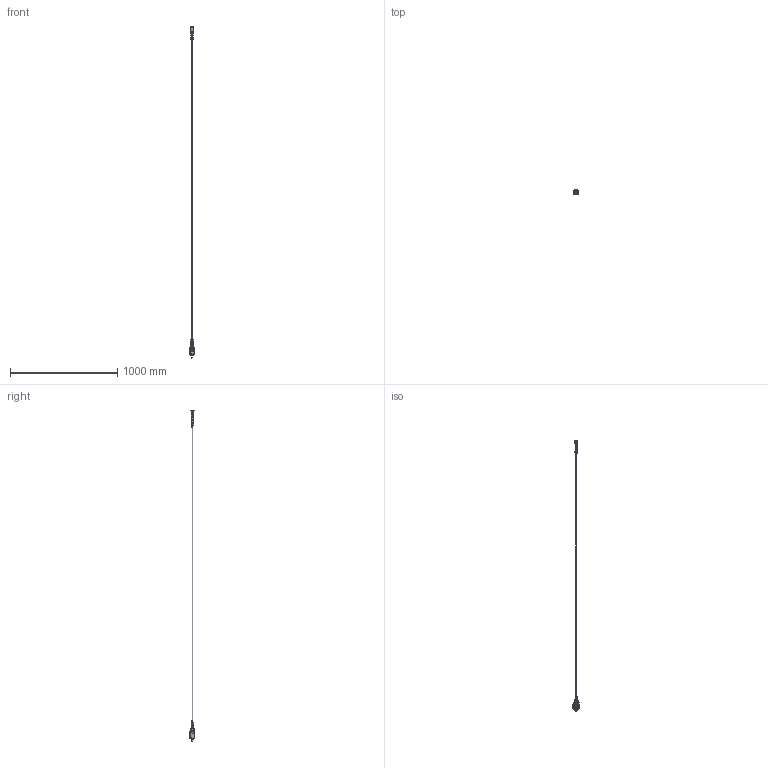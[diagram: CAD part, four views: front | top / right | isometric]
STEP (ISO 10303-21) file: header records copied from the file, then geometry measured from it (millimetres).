
FILE_DESCRIPTION((''),'2;1');
FILE_NAME('868-RP-0__SW000199','2026-03-20T08:41:44',('Hartwig.Bicknese'),(''),'CREO PARAMETRIC BY PTC INC, 2022124','CREO PARAMETRIC BY PTC INC, 2022124','');
FILE_SCHEMA(('AUTOMOTIVE_DESIGN { 1 0 10303 214 1 1 1 1 }'));
Length unit declared in the file: millimetre
Products named in the file (1): 868-RP-0__SW000199
Bounding box: 42.51 x 41 x 3094.93 mm (x, y, z)
Volume: 211095.1 mm3; surface area: 111316.2 mm2
Topology: 3 solids, 5 shells, 4336 faces, 10810 edges, 6567 vertices
Faces by surface type: plane 1362, cylinder 1240, bspline 756, extrusion 503, sphere 268, torus 118, cone 89
Entity records: 239271 total; most frequent: CARTESIAN_POINT 82726, ORIENTED_EDGE 21600, DIRECTION 16015, PRESENTATION_STYLE_ASSIGNMENT 15161, STYLED_ITEM 11308, CURVE_STYLE 11303, EDGE_CURVE 10800, VERTEX_POINT 6567
